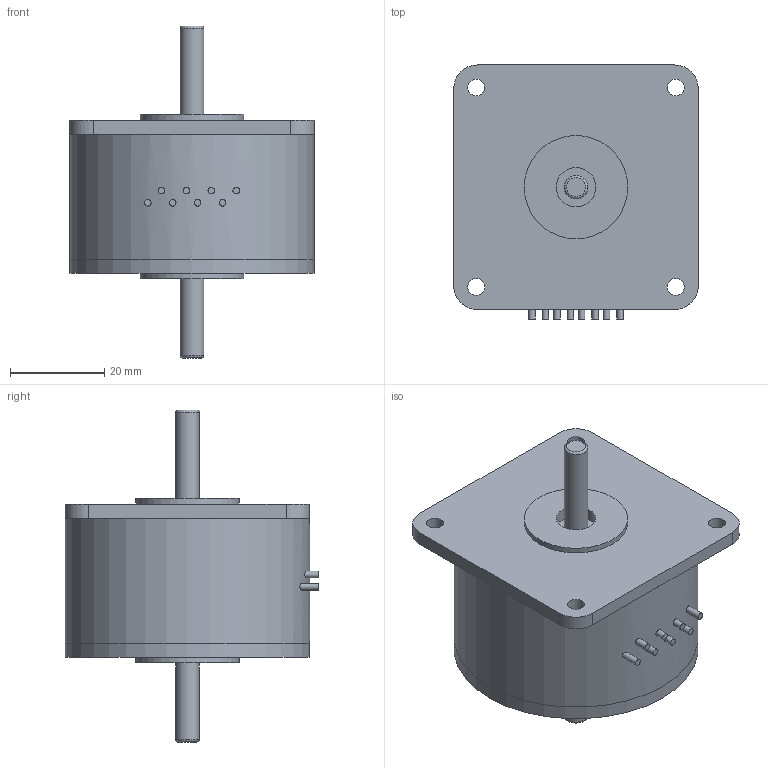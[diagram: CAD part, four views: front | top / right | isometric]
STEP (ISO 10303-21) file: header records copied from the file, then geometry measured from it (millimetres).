
FILE_DESCRIPTION(/* description */ (''),/* implementation_level */ '2;1');
FILE_NAME(/* name */ '5233.0H002.stp',/* time_stamp */ '2019-01-18T17:37:01+01:00',/* author */ ('DR. FRITZ FAULHABER GmbH & Co. KG'),/* organization */ ('DR. FRITZ FAULHABER GmbH & Co. KG'),/* preprocessor_version */ 'ST-DEVELOPER v16.7',/* originating_system */ 'SIEMENS PLM Software NX 12.0',/* authorisation */ '');
FILE_SCHEMA (('AUTOMOTIVE_DESIGN { 1 0 10303 214 3 1 1 1 }'));
Length unit declared in the file: millimetre
Products named in the file (1): 5233.0H002
Bounding box: 52 x 54 x 70.6 mm (x, y, z)
Volume: 72247.5 mm3; surface area: 11884.6 mm2
Topology: 1 solids, 1 shells, 52 faces, 104 edges, 72 vertices
Faces by surface type: cylinder 26, plane 24, torus 2
Full cylindrical faces by diameter (mm): 1.4 x8, 3.6 x4, 5 x2, 8.4 x2, 22 x2, 52 x4
Entity records: 1682 total; most frequent: CARTESIAN_POINT 643, DIRECTION 214, ORIENTED_EDGE 140, EDGE_LOOP 102, AXIS2_PLACEMENT_3D 99, FACE_BOUND 84, EDGE_CURVE 70, VERTEX_POINT 62
